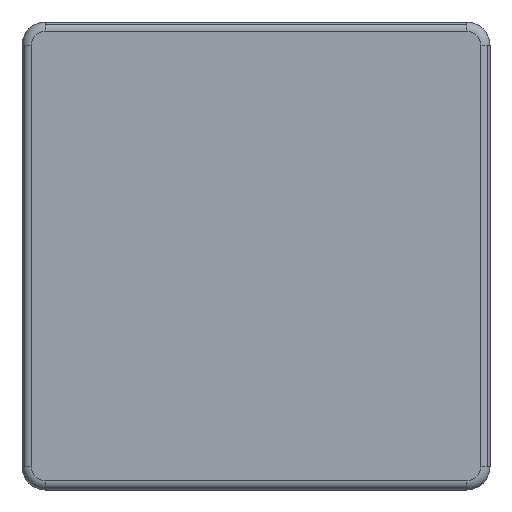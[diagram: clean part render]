
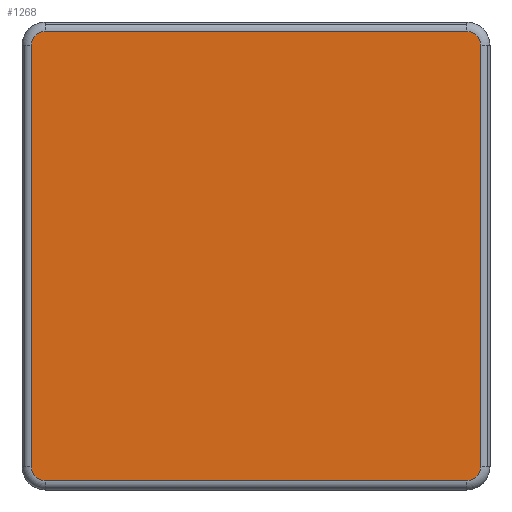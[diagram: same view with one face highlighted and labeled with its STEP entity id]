
A CAD part, front view. The second image highlights one B-rep face of the part: STEP entity #1268.
In plain terms, the highlighted planar face has unit normal (0, -1, 0).
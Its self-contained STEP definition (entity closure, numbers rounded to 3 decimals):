
#1268=ADVANCED_FACE('',(#3436),#3437,.F.);
#3436=FACE_OUTER_BOUND('',#5655,.T.);
#3437=PLANE('',#5656);
#5655=EDGE_LOOP('',(#15032,#15033,#15034,#15035,#15036,#15037,#15038,#15039));
#5656=AXIS2_PLACEMENT_3D('',#15040,#15041,#15042);
#15032=ORIENTED_EDGE('',*,*,#18509,.F.);
#15033=ORIENTED_EDGE('',*,*,#18515,.F.);
#15034=ORIENTED_EDGE('',*,*,#18505,.F.);
#15035=ORIENTED_EDGE('',*,*,#18520,.F.);
#15036=ORIENTED_EDGE('',*,*,#18497,.F.);
#15037=ORIENTED_EDGE('',*,*,#18529,.F.);
#15038=ORIENTED_EDGE('',*,*,#18501,.F.);
#15039=ORIENTED_EDGE('',*,*,#18524,.F.);
#15040=CARTESIAN_POINT('',(0.,-1.0,0.));
#15041=DIRECTION('',(0.0,1.0,0.0));
#15042=DIRECTION('',(0.0,0.0,1.0));
#18497=EDGE_CURVE('',#23711,#23713,#23714,.T.);
#18501=EDGE_CURVE('',#23719,#23721,#23722,.T.);
#18505=EDGE_CURVE('',#23727,#23729,#23730,.T.);
#18509=EDGE_CURVE('',#23735,#23737,#23738,.T.);
#18515=EDGE_CURVE('',#23729,#23735,#23745,.T.);
#18520=EDGE_CURVE('',#23713,#23727,#23751,.T.);
#18524=EDGE_CURVE('',#23737,#23719,#23756,.T.);
#18529=EDGE_CURVE('',#23721,#23711,#23762,.T.);
#23711=VERTEX_POINT('',#32008);
#23713=VERTEX_POINT('',#32010);
#23714=LINE('',#32011,#32012);
#23719=VERTEX_POINT('',#32018);
#23721=VERTEX_POINT('',#32020);
#23722=LINE('',#32021,#32022);
#23727=VERTEX_POINT('',#32028);
#23729=VERTEX_POINT('',#32030);
#23730=LINE('',#32031,#32032);
#23735=VERTEX_POINT('',#32038);
#23737=VERTEX_POINT('',#32040);
#23738=LINE('',#32041,#32042);
#23745=CIRCLE('',#32050,0.015);
#23751=CIRCLE('',#32057,0.015);
#23756=CIRCLE('',#32062,0.015);
#23762=CIRCLE('',#32069,0.015);
#32008=CARTESIAN_POINT('',(-0.225,-1.0,0.24));
#32010=CARTESIAN_POINT('',(0.225,-1.0,0.24));
#32011=CARTESIAN_POINT('',(-0.113,-1.0,0.24));
#32012=VECTOR('',#35396,1.0);
#32018=CARTESIAN_POINT('',(-0.24,-1.0,-0.225));
#32020=CARTESIAN_POINT('',(-0.24,-1.0,0.225));
#32021=CARTESIAN_POINT('',(-0.24,-1.0,-0.113));
#32022=VECTOR('',#35404,1.0);
#32028=CARTESIAN_POINT('',(0.24,-1.0,0.225));
#32030=CARTESIAN_POINT('',(0.24,-1.0,-0.225));
#32031=CARTESIAN_POINT('',(0.24,-1.0,0.113));
#32032=VECTOR('',#35412,1.0);
#32038=CARTESIAN_POINT('',(0.225,-1.0,-0.24));
#32040=CARTESIAN_POINT('',(-0.225,-1.0,-0.24));
#32041=CARTESIAN_POINT('',(0.113,-1.0,-0.24));
#32042=VECTOR('',#35420,1.0);
#32050=AXIS2_PLACEMENT_3D('',#35434,#35435,#35436);
#32057=AXIS2_PLACEMENT_3D('',#35447,#35448,#35449);
#32062=AXIS2_PLACEMENT_3D('',#35459,#35460,#35461);
#32069=AXIS2_PLACEMENT_3D('',#35472,#35473,#35474);
#35396=DIRECTION('',(1.0,0.0,0.0));
#35404=DIRECTION('',(0.0,0.0,1.0));
#35412=DIRECTION('',(0.0,0.0,-1.0));
#35420=DIRECTION('',(-1.0,0.0,0.0));
#35434=CARTESIAN_POINT('',(0.225,-1.0,-0.225));
#35435=DIRECTION('',(0.0,1.0,0.0));
#35436=DIRECTION('',(0.707,0.0,-0.707));
#35447=CARTESIAN_POINT('',(0.225,-1.0,0.225));
#35448=DIRECTION('',(-0.0,1.0,0.0));
#35449=DIRECTION('',(0.707,0.0,0.707));
#35459=CARTESIAN_POINT('',(-0.225,-1.0,-0.225));
#35460=DIRECTION('',(0.0,1.0,0.0));
#35461=DIRECTION('',(-0.707,0.0,-0.707));
#35472=CARTESIAN_POINT('',(-0.225,-1.0,0.225));
#35473=DIRECTION('',(0.0,1.0,0.0));
#35474=DIRECTION('',(-0.707,0.0,0.707));
